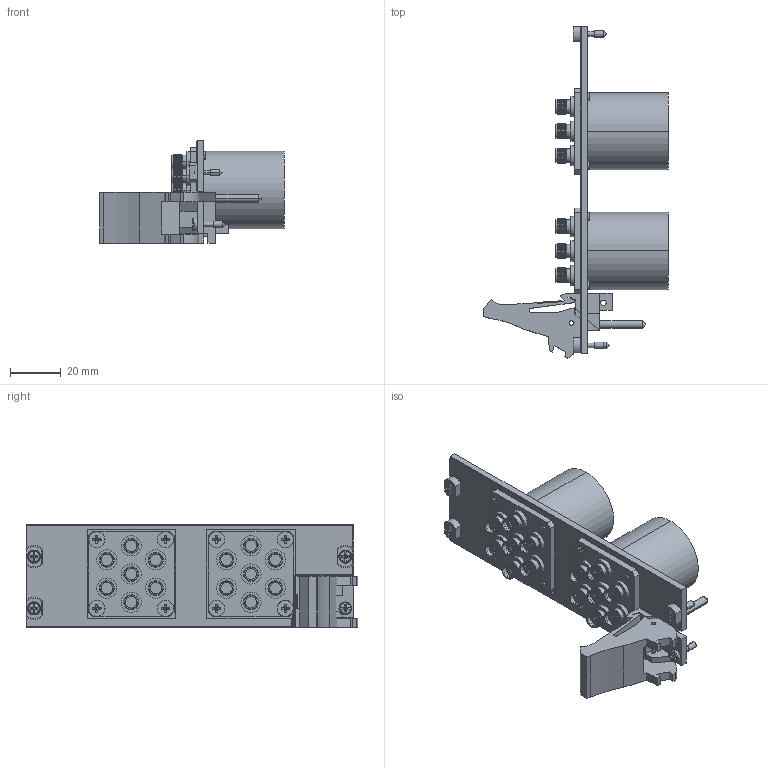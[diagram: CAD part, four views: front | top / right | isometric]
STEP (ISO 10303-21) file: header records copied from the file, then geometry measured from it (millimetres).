
FILE_DESCRIPTION((''),'2;1');
FILE_NAME('CU_PXI-2796','2013-01-08T',('jjorden'),(''),'PRO/ENGINEER BY PARAMETRIC TECHNOLOGY CORPORATION, 2011490','PRO/ENGINEER BY PARAMETRIC TECHNOLOGY CORPORATION, 2011490','');
FILE_SCHEMA(('CONFIG_CONTROL_DESIGN'));
Length unit declared in the file: inch
Products named in the file (1): CU_PXI-2796
Bounding box: 72.64 x 130.5 x 40.34 mm (x, y, z)
Volume: 76629.8 mm3; surface area: 29490 mm2
Topology: 1 solids, 1 shells, 1661 faces, 3650 edges, 2056 vertices
Faces by surface type: cone 702, plane 649, cylinder 252, bspline 38, sphere 12, torus 8
Entity records: 45855 total; most frequent: CARTESIAN_POINT 8952, DIRECTION 8129, ORIENTED_EDGE 7212, EDGE_CURVE 3606, AXIS2_PLACEMENT_3D 2950, VECTOR 2229, LINE 2229, VERTEX_POINT 2227
